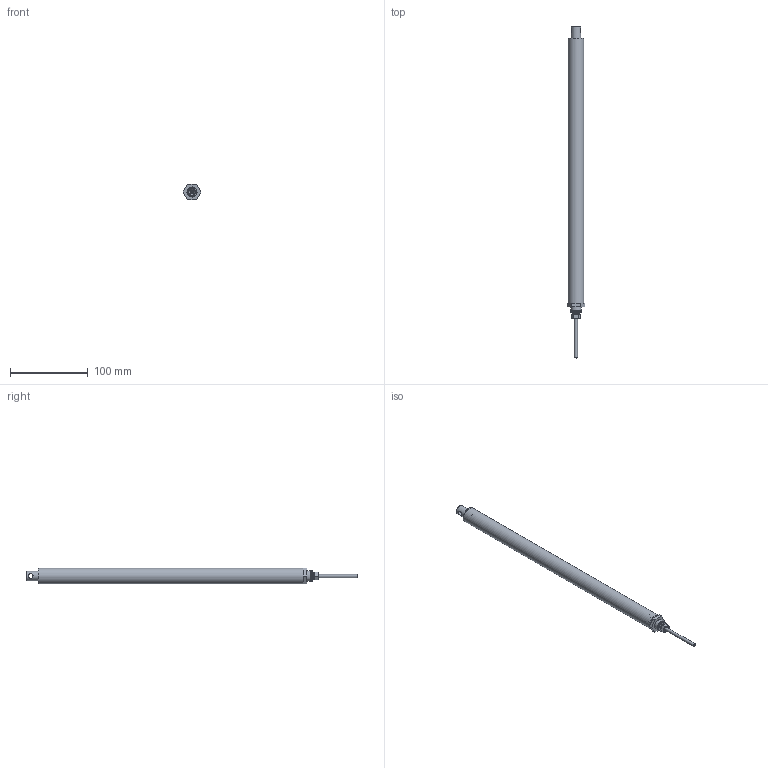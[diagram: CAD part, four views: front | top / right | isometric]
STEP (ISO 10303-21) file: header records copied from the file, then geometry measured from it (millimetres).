
FILE_DESCRIPTION(/* description */ ('Unknown'),/* implementation_level */ '2;1');
FILE_NAME(/* name */ '109.50163 Zylinder CI 1830_eingefahren',/* time_stamp */ '2018-07-09T13:25:59+02:00',/* author */ ('Unknown'),/* organization */ ('Unknown'),/* preprocessor_version */ 'ST-DEVELOPER v16.7',/* originating_system */ 'DEX',/* authorisation */ $);
FILE_SCHEMA (('AUTOMOTIVE_DESIGN {1 0 10303 214 3 1 1}'));
Length unit declared in the file: millimetre
Products named in the file (9): 109.50163; 121.50003; 142.00021; 125.00021; 115.00008_oa_0; 125.00061; 120.00003; 122.00012; 113.00002_70mm
Assembly tree (8 placements, depth 2):
  109.50163
    121.50003
    142.00021
    125.00021
    115.00008_oa_0
    125.00061
    120.00003
    122.00012
    113.00002_70mm
Bounding box: 23.09 x 426 x 20 mm (x, y, z)
Volume: 64706.4 mm3; surface area: 59476.8 mm2
Topology: 7 solids, 7 shells, 91 faces, 183 edges, 117 vertices
Faces by surface type: plane 37, cylinder 27, cone 22, torus 4, sphere 1
Full cylindrical faces by diameter (mm): 2.2 x1, 3.5 x1, 4 x1, 4.1 x1, 4.2 x1, 6 x1, 6.917 x2, 7.763 x2, 8 x3, 8.1 x3, 12 x2, 12.5 x1, 13 x2, 14.4 x1, 17.9 x2, 18 x2, 20 x1
Entity records: 2690 total; most frequent: CARTESIAN_POINT 403, DIRECTION 384, ORIENTED_EDGE 248, AXIS2_PLACEMENT_3D 174, FACE_BOUND 163, EDGE_LOOP 162, EDGE_CURVE 124, VERTEX_POINT 107
